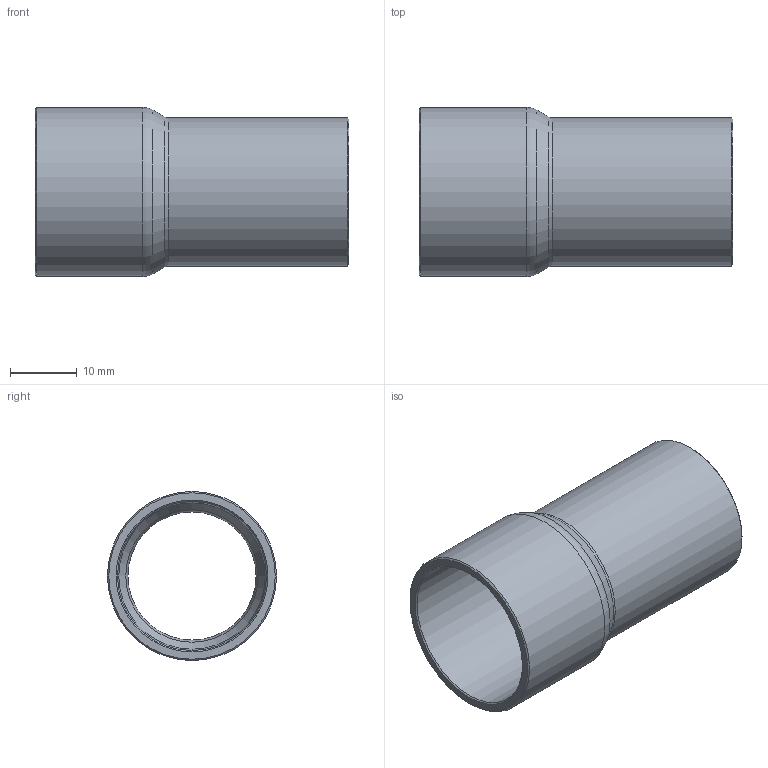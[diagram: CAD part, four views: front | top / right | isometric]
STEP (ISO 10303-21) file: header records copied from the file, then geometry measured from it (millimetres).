
FILE_DESCRIPTION((''),'2;1');
FILE_NAME('G:\SANHA-Ternat\Technik\Management\Bouwmaten + markeringen\z-maattekeningen 3D\29000s\29000s_gem\2924578_gem.stp','2020-03-27T09:40:58',('vdvijverd'),(''),'Autodesk Inventor 2009','Autodesk Inventor 2009','');
FILE_SCHEMA(('AUTOMOTIVE_DESIGN { 1 0 10303 214 1 1 1 1 }'));
Length unit declared in the file: millimetre
Products named in the file (1): 2924578_gem
Bounding box: 47.05 x 25.38 x 25.38 mm (x, y, z)
Volume: 4901.9 mm3; surface area: 6722.8 mm2
Topology: 1 solids, 1 shells, 15 faces, 28 edges, 15 vertices
Faces by surface type: cone 5, cylinder 4, plane 2, torus 2, bspline 2
Full cylindrical faces by diameter (mm): 19.23 x1, 22.23 x1, 22.375 x1, 25.375 x1
Entity records: 414 total; most frequent: CARTESIAN_POINT 134, DIRECTION 58, ORIENTED_EDGE 30, EDGE_LOOP 30, AXIS2_PLACEMENT_3D 29, VERTEX_POINT 15, CIRCLE 15, EDGE_CURVE 15
